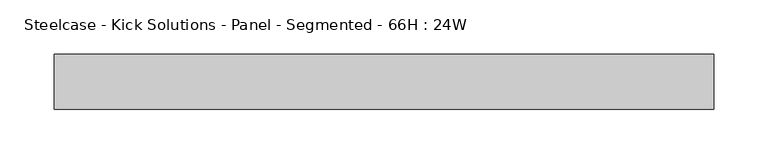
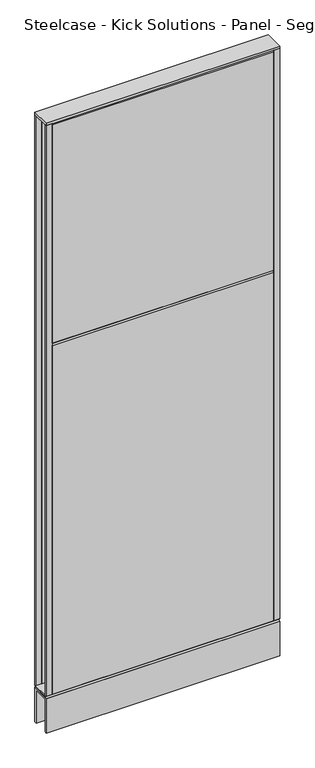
"""IFC4 building model written with IfcOpenShell, lengths in millimetres: furniture geometry, Steelcase - Kick Solutions - Panel - Segmented - 66H : 24W."""

from ifc_helpers import new_model, si_unit, frame, origin, place, context, project, spatial, polyline, outline, extrude, source, transform, mapped, element, save


def steelcase_kick_solutions_panel_segmented_66h_24w_13bf79c3(model_context):
    return source(origin(), model_context, "Body", "SweptSolid", [
        extrude(outline(polyline([(1.5e-06, 101.600003), (-3.175, 101.600003), (-3.175, 1676.4), (1.5e-06, 1673.3188448), (1.5e-06, 101.600003)])), frame((15.8749996, 0.0, 0.0), z_axis=(1.0, 0.0, 0.0), x_axis=(0.0, 1.0, 0.0)), (0.0, 0.0, 1.0), 577.8500008),
        extrude(outline(polyline([(-50.8000015, 1069.8811552), (-50.8000015, 1673.3188448), (-47.625, 1676.4), (-47.625, 1066.8), (-50.8000015, 1069.8811552)])), frame((15.8749996, 0.0, 0.0), z_axis=(1.0, 0.0, 0.0), x_axis=(0.0, 1.0, 0.0)), (0.0, 0.0, 1.0), 577.8500008),
        extrude(outline(polyline([(-50.8000015, 101.600003), (-50.8000015, 1063.7188448), (-47.625, 1066.8), (-47.625, 101.600003), (-50.8000015, 101.600003)])), frame((15.8749996, 0.0, 0.0), z_axis=(1.0, 0.0, 0.0), x_axis=(0.0, 1.0, 0.0)), (0.0, 0.0, 1.0), 577.8500008),
        extrude(outline(polyline([(609.6, -3.1750015), (593.7250004, -3.1750015), (593.7250004, 0.0), (609.6, 0.0), (609.6, -3.1750015)])), frame((0.0, 0.0, 101.7169049), z_axis=(0.0, 0.0, 1.0), x_axis=(1.0, 0.0, 0.0)), (0.0, 0.0, 1.0), 1574.799997),
        extrude(outline(polyline([(15.8749996, -50.8000015), (0.0, -50.8000015), (0.0, -47.625), (15.8749996, -47.625), (15.8749996, -50.8000015)])), frame((0.0, 0.0, 101.7169049), z_axis=(0.0, 0.0, 1.0), x_axis=(1.0, 0.0, 0.0)), (0.0, 0.0, 1.0), 1574.799997),
        extrude(outline(polyline([(-50.7995075, 101.7169049), (-0.000494, 101.7169049), (-3.0583512, 98.5421458), (-47.7416503, 98.5421458), (-50.7995075, 101.7169049)])), frame((0.0, 0.0, 0.0), z_axis=(1.0, 0.0, 0.0), x_axis=(0.0, 1.0, 0.0)), (0.0, 0.0, 1.0), 609.6),
        extrude(outline(polyline([(609.6, 0.0), (609.6, -50.8000015), (0.0, -50.8000015), (0.0, 0.0), (609.6, 0.0)])), frame((0.0, 0.0, 1676.5169018), z_axis=(0.0, 0.0, 1.0), x_axis=(1.0, 0.0, 0.0)), (0.0, 0.0, 1.0), 6.35),
        extrude(outline(polyline([(15.8749996, -3.1750015), (0.0, -3.1750015), (0.0, 0.0), (15.8749996, 0.0), (15.8749996, -3.1750015)])), frame((0.0, 0.0, 101.7169049), z_axis=(0.0, 0.0, 1.0), x_axis=(1.0, 0.0, 0.0)), (0.0, 0.0, 1.0), 1574.799997),
        extrude(outline(polyline([(609.6, -50.8000015), (593.7250004, -50.8000015), (593.7250004, -47.625), (609.6, -47.625), (609.6, -50.8000015)])), frame((0.0, 0.0, 101.7169049), z_axis=(0.0, 0.0, 1.0), x_axis=(1.0, 0.0, 0.0)), (0.0, 0.0, 1.0), 1574.799997),
        extrude(outline(polyline([(-50.8000015, 95.3668927), (-47.6247484, 98.5421458), (-3.1752531, 98.5421458), (0.0, 95.3668927), (-50.8000015, 95.3668927)])), frame((0.0, 0.0, 0.0), z_axis=(1.0, 0.0, 0.0), x_axis=(0.0, 1.0, 0.0)), (0.0, 0.0, 1.0), 609.6),
        extrude(outline(polyline([(0.0, 0.0), (-5.08, 0.0), (-5.08, 90.2869018), (-45.7200015, 90.2869018), (-45.7200015, 0.0), (-50.8000015, 0.0), (-50.8000015, 95.3669018), (0.0, 95.3669018), (0.0, 0.0)])), frame((0.0, 0.0, 0.0), z_axis=(1.0, 0.0, 0.0), x_axis=(0.0, 1.0, 0.0)), (0.0, 0.0, 1.0), 609.6),
    ])


if __name__ == "__main__":
    model = new_model("IFC4")
    model_context = context("Model", 3, world=origin())
    ifc_project = project(units=[si_unit("LENGTHUNIT", "METRE", prefix="MILLI")], contexts=[model_context])
    site = spatial("IfcSite", under=ifc_project)
    building = spatial("IfcBuilding", under=site)
    placement = place(None, origin())
    steelcase_kick_solutions_panel_segmented_66h_24w_shape = steelcase_kick_solutions_panel_segmented_66h_24w_13bf79c3(model_context)
    element("IfcFurniture", 1, ObjectType="Steelcase - Kick Solutions - Panel - Segmented - 66H : 24W", at=placement, inside=building, context=model_context, shape_type="MappedRepresentation", body=[
        mapped(steelcase_kick_solutions_panel_segmented_66h_24w_shape, transform((0.0, 0.0, 0.0), x_axis=(1.0, 0.0, 0.0), y_axis=(0.0, 1.0, 0.0), z_axis=(0.0, 0.0, 1.0))),
    ])
    save(model, "model.ifc")
